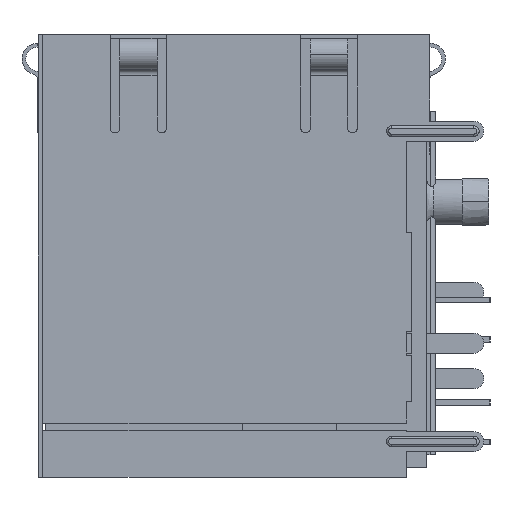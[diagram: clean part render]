
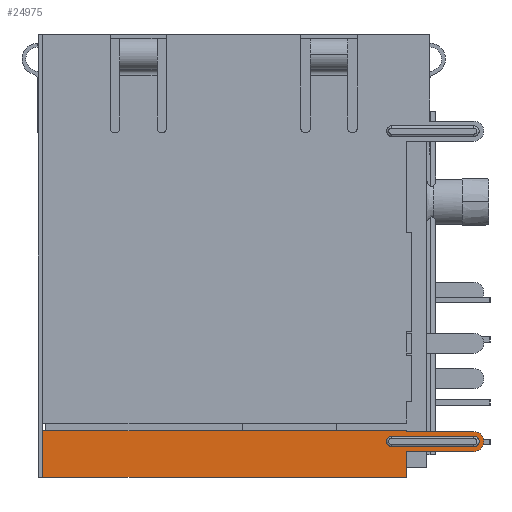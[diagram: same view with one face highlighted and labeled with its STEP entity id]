
A CAD part, left-side view. The second image highlights one B-rep face of the part: STEP entity #24975.
In plain terms, the highlighted planar face has unit normal (-1, 0, 0).
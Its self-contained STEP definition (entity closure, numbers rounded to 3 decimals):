
#911 = CARTESIAN_POINT ( 'NONE',  ( -56.038, -0.201, -12.337 ) ) ;
#1547 = CARTESIAN_POINT ( 'NONE',  ( -56.038, 22.349, -11.3 ) ) ;
#1735 = CARTESIAN_POINT ( 'NONE',  ( -56.038, 22.349, -11.3 ) ) ;
#3506 = VERTEX_POINT ( 'NONE', #5986 ) ;
#3766 = DIRECTION ( 'NONE',  ( 0., -1., 0. ) ) ;
#4234 = VECTOR ( 'NONE', #84044, 1000. ) ;
#5325 = EDGE_CURVE ( 'NONE', #3506, #46284, #44358, .T. ) ;
#5467 = LINE ( 'NONE', #39693, #26110 ) ;
#5647 = DIRECTION ( 'NONE',  ( 0., 1., 0. ) ) ;
#5986 = CARTESIAN_POINT ( 'NONE',  ( -56.038, -0.201, -11.643 ) ) ;
#6982 = EDGE_CURVE ( 'NONE', #51042, #26876, #5467, .T. ) ;
#7106 = VERTEX_POINT ( 'NONE', #76636 ) ;
#7121 = VERTEX_POINT ( 'NONE', #54129 ) ;
#7594 = EDGE_CURVE ( 'NONE', #7106, #25498, #21954, .T. ) ;
#8662 = LINE ( 'NONE', #14983, #32601 ) ;
#9224 = EDGE_CURVE ( 'NONE', #51604, #46284, #19597, .T. ) ;
#9743 = EDGE_CURVE ( 'NONE', #7121, #48409, #21902, .T. ) ;
#11886 = CARTESIAN_POINT ( 'NONE',  ( -56.038, 22.349, -14.3 ) ) ;
#13629 = ORIENTED_EDGE ( 'NONE', *, *, #9224, .T. ) ;
#14983 = CARTESIAN_POINT ( 'NONE',  ( -56.038, -1.151, -12.64 ) ) ;
#15628 = LINE ( 'NONE', #51659, #22479 ) ;
#15656 = DIRECTION ( 'NONE',  ( 0., 0., 1. ) ) ;
#16344 = EDGE_CURVE ( 'NONE', #3506, #38298, #62882, .T. ) ;
#19597 = LINE ( 'NONE', #61527, #53541 ) ;
#19900 = ORIENTED_EDGE ( 'NONE', *, *, #5325, .F. ) ;
#19916 = ORIENTED_EDGE ( 'NONE', *, *, #9743, .T. ) ;
#20517 = CARTESIAN_POINT ( 'NONE',  ( -56.038, -5.501, -11.99 ) ) ;
#21663 = VECTOR ( 'NONE', #78991, 1000. ) ;
#21902 = CIRCLE ( 'NONE', #24821, 0.65 ) ;
#21954 = LINE ( 'NONE', #63885, #23073 ) ;
#22479 = VECTOR ( 'NONE', #64760, 1000. ) ;
#22517 = EDGE_CURVE ( 'NONE', #25498, #7121, #8662, .T. ) ;
#23073 = VECTOR ( 'NONE', #15656, 1000. ) ;
#23088 = LINE ( 'NONE', #51030, #21663 ) ;
#24821 = AXIS2_PLACEMENT_3D ( 'NONE', #86704, #24922, #38884 ) ;
#24922 = DIRECTION ( 'NONE',  ( -1., 0., 0. ) ) ;
#24975 = ADVANCED_FACE ( 'NONE', ( #27268, #76399 ), #35336, .T. ) ;
#25498 = VERTEX_POINT ( 'NONE', #54514 ) ;
#25565 = ORIENTED_EDGE ( 'NONE', *, *, #22517, .T. ) ;
#25661 = DIRECTION ( 'NONE',  ( 0., 0., 1. ) ) ;
#26090 = VECTOR ( 'NONE', #28615, 1000. ) ;
#26110 = VECTOR ( 'NONE', #59571, 1000. ) ;
#26876 = VERTEX_POINT ( 'NONE', #1735 ) ;
#27268 = FACE_OUTER_BOUND ( 'NONE', #27302, .T. ) ;
#27302 = EDGE_LOOP ( 'NONE', ( #50703, #70583, #61478, #57033, #25565, #19916, #66762, #75395 ) ) ;
#28615 = DIRECTION ( 'NONE',  ( 0., -1., 0. ) ) ;
#32601 = VECTOR ( 'NONE', #84852, 1000. ) ;
#32856 = DIRECTION ( 'NONE',  ( -1., 0., 0. ) ) ;
#34451 = DIRECTION ( 'NONE',  ( -1., 0., 0. ) ) ;
#35336 = PLANE ( 'NONE',  #66407 ) ;
#35780 = LINE ( 'NONE', #1547, #4234 ) ;
#35798 = CARTESIAN_POINT ( 'NONE',  ( -56.038, 22.349, -14.3 ) ) ;
#38298 = VERTEX_POINT ( 'NONE', #65719 ) ;
#38867 = ORIENTED_EDGE ( 'NONE', *, *, #41588, .F. ) ;
#38884 = DIRECTION ( 'NONE',  ( 0., 0., 1. ) ) ;
#39693 = CARTESIAN_POINT ( 'NONE',  ( -56.038, -1.151, -11.3 ) ) ;
#39937 = CARTESIAN_POINT ( 'NONE',  ( -56.038, -5.501, -11.34 ) ) ;
#41588 = EDGE_CURVE ( 'NONE', #51604, #38298, #56147, .T. ) ;
#43414 = VERTEX_POINT ( 'NONE', #59160 ) ;
#43465 = DIRECTION ( 'NONE',  ( 0., -1., 0. ) ) ;
#44358 = CIRCLE ( 'NONE', #86140, 0.347 ) ;
#46284 = VERTEX_POINT ( 'NONE', #911 ) ;
#47972 = ORIENTED_EDGE ( 'NONE', *, *, #16344, .T. ) ;
#48409 = VERTEX_POINT ( 'NONE', #39937 ) ;
#49140 = VECTOR ( 'NONE', #43465, 1000. ) ;
#49775 = CARTESIAN_POINT ( 'NONE',  ( -56.038, -5.501, -11.643 ) ) ;
#50703 = ORIENTED_EDGE ( 'NONE', *, *, #6982, .T. ) ;
#51030 = CARTESIAN_POINT ( 'NONE',  ( -56.038, -5.501, -11.34 ) ) ;
#51042 = VERTEX_POINT ( 'NONE', #69818 ) ;
#51604 = VERTEX_POINT ( 'NONE', #67807 ) ;
#51659 = CARTESIAN_POINT ( 'NONE',  ( -56.038, -1.151, -11.34 ) ) ;
#51792 = EDGE_CURVE ( 'NONE', #48409, #43414, #23088, .T. ) ;
#53541 = VECTOR ( 'NONE', #5647, 1000. ) ;
#54129 = CARTESIAN_POINT ( 'NONE',  ( -56.038, -5.501, -12.64 ) ) ;
#54514 = CARTESIAN_POINT ( 'NONE',  ( -56.038, -1.151, -12.64 ) ) ;
#54808 = LINE ( 'NONE', #35798, #26090 ) ;
#56147 = CIRCLE ( 'NONE', #67683, 0.347 ) ;
#57033 = ORIENTED_EDGE ( 'NONE', *, *, #7594, .T. ) ;
#59160 = CARTESIAN_POINT ( 'NONE',  ( -56.038, -1.151, -11.34 ) ) ;
#59571 = DIRECTION ( 'NONE',  ( 0., 1., 0. ) ) ;
#61478 = ORIENTED_EDGE ( 'NONE', *, *, #81084, .T. ) ;
#61527 = CARTESIAN_POINT ( 'NONE',  ( -56.038, -0.201, -12.337 ) ) ;
#62880 = DIRECTION ( 'NONE',  ( 0., 0., 1. ) ) ;
#62882 = LINE ( 'NONE', #49775, #49140 ) ;
#63885 = CARTESIAN_POINT ( 'NONE',  ( -56.038, -1.151, -14.3 ) ) ;
#63936 = EDGE_LOOP ( 'NONE', ( #19900, #47972, #38867, #13629 ) ) ;
#64760 = DIRECTION ( 'NONE',  ( 0., 0., 1. ) ) ;
#65719 = CARTESIAN_POINT ( 'NONE',  ( -56.038, -5.501, -11.643 ) ) ;
#66407 = AXIS2_PLACEMENT_3D ( 'NONE', #20517, #34451, #62880 ) ;
#66432 = DIRECTION ( 'NONE',  ( -1., 0., 0. ) ) ;
#66762 = ORIENTED_EDGE ( 'NONE', *, *, #51792, .T. ) ;
#67683 = AXIS2_PLACEMENT_3D ( 'NONE', #74348, #32856, #25661 ) ;
#67807 = CARTESIAN_POINT ( 'NONE',  ( -56.038, -5.501, -12.337 ) ) ;
#69818 = CARTESIAN_POINT ( 'NONE',  ( -56.038, -1.151, -11.3 ) ) ;
#70583 = ORIENTED_EDGE ( 'NONE', *, *, #85879, .T. ) ;
#74057 = CARTESIAN_POINT ( 'NONE',  ( -56.038, -0.201, -11.99 ) ) ;
#74348 = CARTESIAN_POINT ( 'NONE',  ( -56.038, -5.501, -11.99 ) ) ;
#75395 = ORIENTED_EDGE ( 'NONE', *, *, #82230, .T. ) ;
#76399 = FACE_BOUND ( 'NONE', #63936, .T. ) ;
#76636 = CARTESIAN_POINT ( 'NONE',  ( -56.038, -1.151, -14.3 ) ) ;
#78991 = DIRECTION ( 'NONE',  ( 0., 1., 0. ) ) ;
#81084 = EDGE_CURVE ( 'NONE', #82849, #7106, #54808, .T. ) ;
#82230 = EDGE_CURVE ( 'NONE', #43414, #51042, #15628, .T. ) ;
#82849 = VERTEX_POINT ( 'NONE', #11886 ) ;
#84044 = DIRECTION ( 'NONE',  ( 0., 0., -1. ) ) ;
#84852 = DIRECTION ( 'NONE',  ( 0., -1., 0. ) ) ;
#85879 = EDGE_CURVE ( 'NONE', #26876, #82849, #35780, .T. ) ;
#86140 = AXIS2_PLACEMENT_3D ( 'NONE', #74057, #66432, #3766 ) ;
#86704 = CARTESIAN_POINT ( 'NONE',  ( -56.038, -5.501, -11.99 ) ) ;
